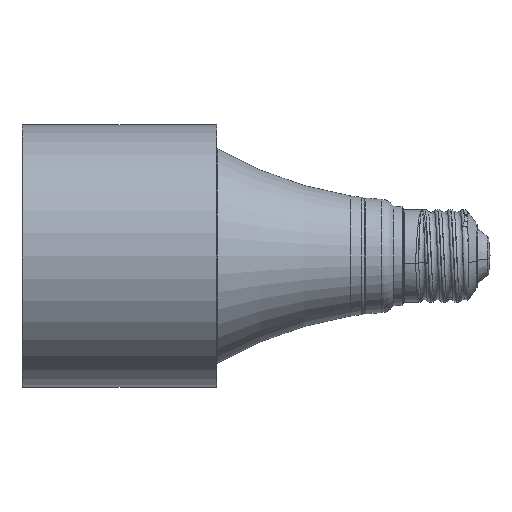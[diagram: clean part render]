
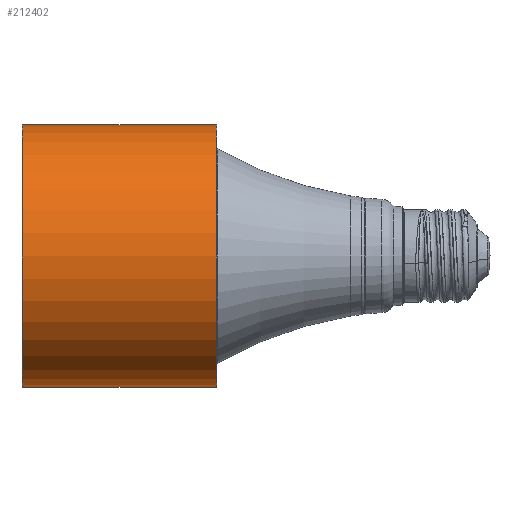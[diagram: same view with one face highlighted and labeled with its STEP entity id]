
A CAD part, left-side view. The second image highlights one B-rep face of the part: STEP entity #212402.
In plain terms, the highlighted cylindrical face has radius 37 mm (diameter 74 mm), a partial arc.
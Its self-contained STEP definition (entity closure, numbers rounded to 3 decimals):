
#211267 = VERTEX_POINT('',#211268);
#211268 = CARTESIAN_POINT('',(-37.,0.,54.8));
#211269 = VERTEX_POINT('',#211270);
#211270 = CARTESIAN_POINT('',(37.,0.,54.8));
#211322 = VERTEX_POINT('',#211323);
#211323 = CARTESIAN_POINT('',(-37.,0.,0.2));
#211331 = VERTEX_POINT('',#211332);
#211332 = CARTESIAN_POINT('',(37.,0.,0.2));
#211398 = EDGE_CURVE('',#211269,#211331,#211399,.T.);
#211399 = LINE('',#211400,#211401);
#211400 = CARTESIAN_POINT('',(37.,0.,55.));
#211401 = VECTOR('',#211402,1.);
#211402 = DIRECTION('',(-0.,-0.,-1.));
#211405 = EDGE_CURVE('',#211267,#211322,#211406,.T.);
#211406 = LINE('',#211407,#211408);
#211407 = CARTESIAN_POINT('',(-37.,0.,55.));
#211408 = VECTOR('',#211409,1.);
#211409 = DIRECTION('',(-0.,-0.,-1.));
#212402 = ADVANCED_FACE('',(#212403),#212421,.T.);
#212403 = FACE_BOUND('',#212404,.T.);
#212404 = EDGE_LOOP('',(#212405,#212406,#212413,#212414));
#212405 = ORIENTED_EDGE('',*,*,#211398,.F.);
#212406 = ORIENTED_EDGE('',*,*,#212407,.T.);
#212407 = EDGE_CURVE('',#211269,#211267,#212408,.T.);
#212408 = CIRCLE('',#212409,37.);
#212409 = AXIS2_PLACEMENT_3D('',#212410,#212411,#212412);
#212410 = CARTESIAN_POINT('',(0.,0.,54.8));
#212411 = DIRECTION('',(0.,0.,-1.));
#212412 = DIRECTION('',(1.,0.,0.));
#212413 = ORIENTED_EDGE('',*,*,#211405,.T.);
#212414 = ORIENTED_EDGE('',*,*,#212415,.T.);
#212415 = EDGE_CURVE('',#211322,#211331,#212416,.T.);
#212416 = CIRCLE('',#212417,37.);
#212417 = AXIS2_PLACEMENT_3D('',#212418,#212419,#212420);
#212418 = CARTESIAN_POINT('',(0.,0.,0.2));
#212419 = DIRECTION('',(0.,0.,1.));
#212420 = DIRECTION('',(1.,0.,-0.));
#212421 = CYLINDRICAL_SURFACE('',#212422,37.);
#212422 = AXIS2_PLACEMENT_3D('',#212423,#212424,#212425);
#212423 = CARTESIAN_POINT('',(0.,0.,55.));
#212424 = DIRECTION('',(-0.,-0.,-1.));
#212425 = DIRECTION('',(-1.,0.,0.));
